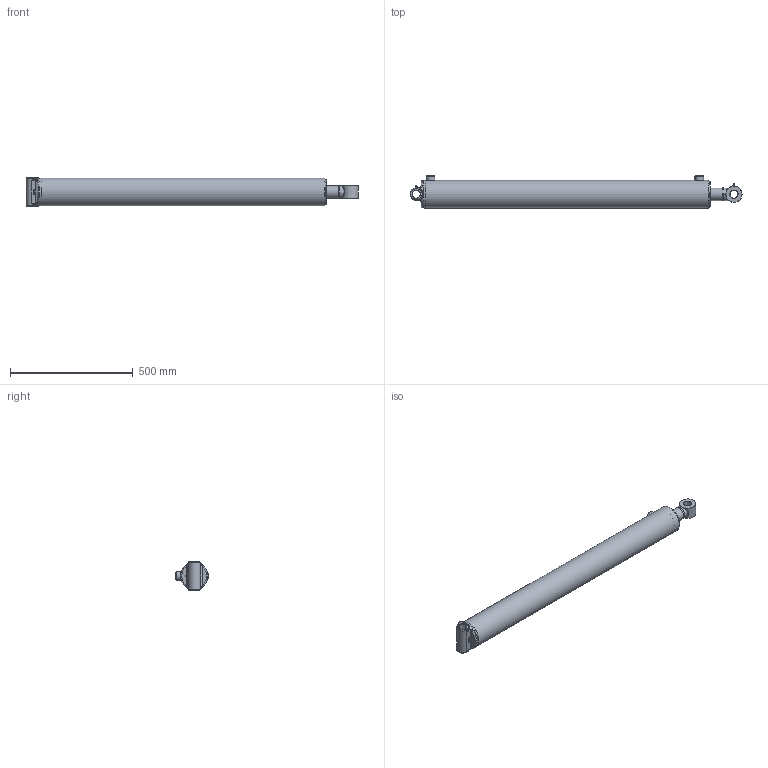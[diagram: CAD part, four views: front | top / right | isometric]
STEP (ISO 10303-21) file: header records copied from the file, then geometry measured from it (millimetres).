
FILE_DESCRIPTION(/* description */ ('Ø4.00 X 42.00 DA'),/* implementation_level */ '2;1');
FILE_NAME(/* name */ 'D:\Temp\1EC677A6F87950A\tjae4icm.jtg\Temp\boiqls3x..stp',/* time_stamp */ '2020-09-18T16:02:56+00:00',/* author */ (''),/* organization */ ('PRINCE MANUFACTURING'),/* preprocessor_version */ 'ST-DEVELOPER v18.1',/* originating_system */ 'Autodesk Inventor 2021',/* authorisation */ '');
FILE_SCHEMA (('AUTOMOTIVE_DESIGN { 1 0 10303 214 3 1 1 }'));
Length unit declared in the file: inch
Products named in the file (21): PC4042020A00-510XTXS; 0619-XTSG00-420; 0519-T-45620; 161900225; 200015706; 06Weld1_C360; 0719-P-125; 220000212; 0819-G-200; 230025106; 230025006; 240000026; 240061342; 240000342; 0211-AXS40-510X; 0111A-JAW4-47937; 210600511; 02Weld_C360; 240020009; 250014200; 270010020
Assembly tree (22 placements, depth 3):
  PC4042020A00-510XTXS
    0619-XTSG00-420
      0519-T-45620
      161900225
      200015706  x2
      06Weld1_C360
    0719-P-125
    220000212
    0819-G-200
    230025106
    230025006
    240000026
    240061342
    240000342
    0211-AXS40-510X
      0111A-JAW4-47937
      210600511
      02Weld_C360
    240020009
    250014200
    270010020  x2
Bounding box: 1353.47 x 132.19 x 114.3 mm (x, y, z)
Volume: 5513797.2 mm3; surface area: 1204134.6 mm2
Topology: 26 solids, 26 shells, 499 faces, 1415 edges, 978 vertices
Faces by surface type: plane 139, bspline 126, torus 90, cylinder 80, cone 62, sphere 2
Full cylindrical faces by diameter (mm): 1.524 x2, 5.359 x2, 6.35 x2, 12.7 x2, 20.269 x2, 29.464 x1, 31.699 x1, 31.826 x1, 32.131 x2, 34.315 x1, 34.925 x2, 35.052 x2, 50.8 x1, 50.876 x2, 51.994 x2, 52.832 x1, 53.188 x1, 57.963 x1, 59.157 x1, 60.35 x1, 61.976 x2, 63.5 x2, 73.152 x1, 82.55 x1, 92.177 x2, 92.913 x2, 96.52 x1, 98.031 x2, 98.273 x4, 100.986 x2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
Entity records: 32916 total; most frequent: CARTESIAN_POINT 19556, ORIENTED_EDGE 2656, DIRECTION 2459, EDGE_CURVE 1328, AXIS2_PLACEMENT_3D 1059, VERTEX_POINT 925, CIRCLE 657, EDGE_LOOP 539
